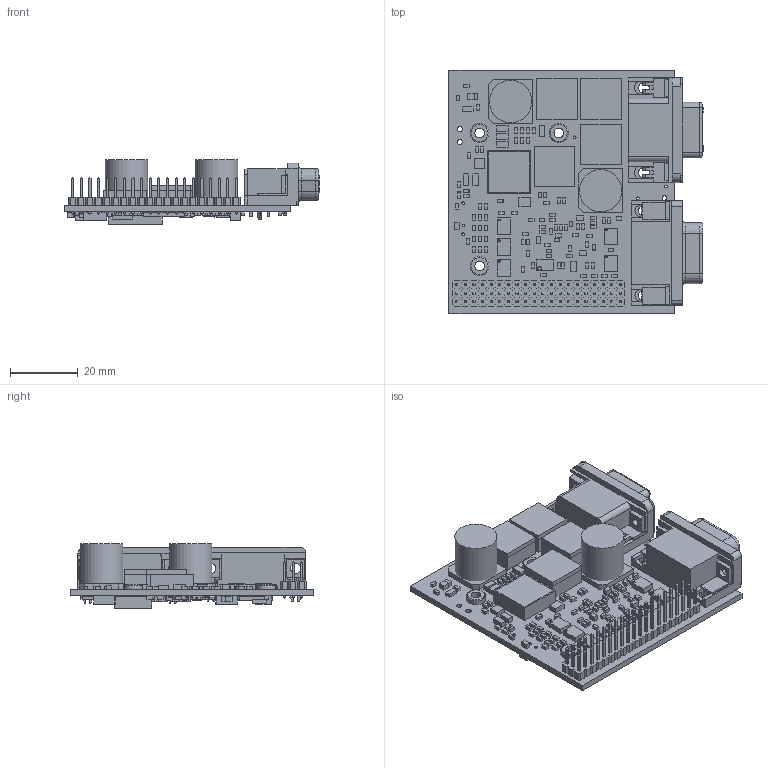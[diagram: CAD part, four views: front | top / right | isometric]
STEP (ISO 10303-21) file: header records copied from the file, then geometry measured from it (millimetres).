
FILE_DESCRIPTION(/* description */ ('Alibre Inc.'),/* implementation_level */ '2;1');
FILE_NAME(/* name */ 'export0',/* time_stamp */ '2010-12-17T14:10:10-08:00',/* author */ (''),/* organization */ (''),/* preprocessor_version */ 'ST-DEVELOPER v12',/* originating_system */ 'Alibre',/* authorisation */ '');
FILE_SCHEMA (('AUTOMOTIVE_DESIGN'));
Length unit declared in the file: millimetre
Bounding box: 74.91 x 71.88 x 18.95 mm (x, y, z)
Volume: 28256 mm3; surface area: 32289.9 mm2
Topology: 352 solids, 352 shells, 4045 faces, 9645 edges, 6366 vertices
Faces by surface type: plane 3771, cylinder 256, torus 15, cone 3
Full cylindrical faces by diameter (mm): 0.4 x1, 0.508 x11, 0.762 x6, 1.016 x4, 1.092 x70, 1.346 x29, 1.524 x2, 2.845 x3, 3.175 x4, 4.089 x3, 4.216 x3, 5.563 x3, 12.5 x2
Entity records: 91543 total; most frequent: CARTESIAN_POINT 15448, ORIENTED_EDGE 13818, DIRECTION 12940, EDGE_CURVE 6905, VECTOR 6388, LINE 6388, VERTEX_POINT 4562, AXIS2_PLACEMENT_3D 4484
